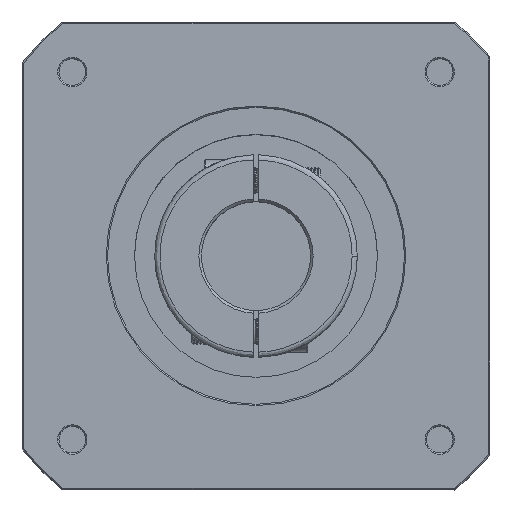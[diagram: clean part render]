
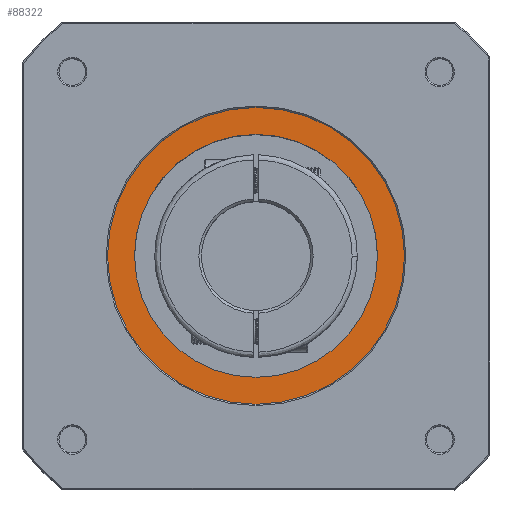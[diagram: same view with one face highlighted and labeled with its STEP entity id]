
A CAD part, top view. The second image highlights one B-rep face of the part: STEP entity #88322.
In plain terms, the highlighted planar face has unit normal (0, 0, -1).
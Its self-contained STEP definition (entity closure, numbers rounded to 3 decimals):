
#1154 = DIRECTION ( 'NONE',  ( 1., 0., 0. ) ) ;
#6367 = AXIS2_PLACEMENT_3D ( 'NONE', #96875, #48991, #1154 ) ;
#6799 = DIRECTION ( 'NONE',  ( 1., 0., 0. ) ) ;
#13431 = CARTESIAN_POINT ( 'NONE',  ( 0., 0., 257.5 ) ) ;
#15194 = EDGE_CURVE ( 'NONE', #20793, #89269, #48021, .T. ) ;
#17047 = EDGE_CURVE ( 'NONE', #89269, #20793, #74029, .T. ) ;
#20251 = VERTEX_POINT ( 'NONE', #40940 ) ;
#20793 = VERTEX_POINT ( 'NONE', #64957 ) ;
#21458 = DIRECTION ( 'NONE',  ( 1., 0., 0. ) ) ;
#28651 = AXIS2_PLACEMENT_3D ( 'NONE', #85008, #37146, #93091 ) ;
#30024 = AXIS2_PLACEMENT_3D ( 'NONE', #45640, #101561, #53676 ) ;
#32643 = CARTESIAN_POINT ( 'NONE',  ( -46.75, 0., 257.5 ) ) ;
#37146 = DIRECTION ( 'NONE',  ( 0., 0., 1. ) ) ;
#40592 = CIRCLE ( 'NONE', #28651, 46.75 ) ;
#40940 = CARTESIAN_POINT ( 'NONE',  ( 46.75, 0., 257.5 ) ) ;
#45640 = CARTESIAN_POINT ( 'NONE',  ( 0., 0., 257.5 ) ) ;
#47863 = EDGE_LOOP ( 'NONE', ( #51825, #95026 ) ) ;
#48021 = CIRCLE ( 'NONE', #55832, 57.15 ) ;
#48991 = DIRECTION ( 'NONE',  ( 0., 0., -1. ) ) ;
#51825 = ORIENTED_EDGE ( 'NONE', *, *, #89440, .T. ) ;
#53273 = ORIENTED_EDGE ( 'NONE', *, *, #17047, .T. ) ;
#53676 = DIRECTION ( 'NONE',  ( -1., 0., 0. ) ) ;
#54642 = DIRECTION ( 'NONE',  ( 0., 0., 1. ) ) ;
#55832 = AXIS2_PLACEMENT_3D ( 'NONE', #13431, #69366, #21458 ) ;
#57193 = FACE_BOUND ( 'NONE', #47863, .T. ) ;
#58034 = CIRCLE ( 'NONE', #30024, 46.75 ) ;
#62323 = PLANE ( 'NONE',  #68780 ) ;
#64957 = CARTESIAN_POINT ( 'NONE',  ( -57.15, 0., 257.5 ) ) ;
#68461 = EDGE_CURVE ( 'NONE', #20251, #92677, #58034, .T. ) ;
#68780 = AXIS2_PLACEMENT_3D ( 'NONE', #102512, #54642, #6799 ) ;
#69366 = DIRECTION ( 'NONE',  ( 0., 0., -1. ) ) ;
#72592 = CARTESIAN_POINT ( 'NONE',  ( 57.15, 0., 257.5 ) ) ;
#74029 = CIRCLE ( 'NONE', #6367, 57.15 ) ;
#75905 = FACE_OUTER_BOUND ( 'NONE', #97016, .T. ) ;
#85008 = CARTESIAN_POINT ( 'NONE',  ( 0., 0., 257.5 ) ) ;
#88322 = ADVANCED_FACE ( 'NONE', ( #57193, #75905 ), #62323, .F. ) ;
#89269 = VERTEX_POINT ( 'NONE', #72592 ) ;
#89440 = EDGE_CURVE ( 'NONE', #92677, #20251, #40592, .T. ) ;
#91091 = ORIENTED_EDGE ( 'NONE', *, *, #15194, .T. ) ;
#92677 = VERTEX_POINT ( 'NONE', #32643 ) ;
#93091 = DIRECTION ( 'NONE',  ( -1., 0., 0. ) ) ;
#95026 = ORIENTED_EDGE ( 'NONE', *, *, #68461, .T. ) ;
#96875 = CARTESIAN_POINT ( 'NONE',  ( 0., 0., 257.5 ) ) ;
#97016 = EDGE_LOOP ( 'NONE', ( #53273, #91091 ) ) ;
#101561 = DIRECTION ( 'NONE',  ( 0., 0., 1. ) ) ;
#102512 = CARTESIAN_POINT ( 'NONE',  ( -57.836, -57.836, 257.5 ) ) ;
